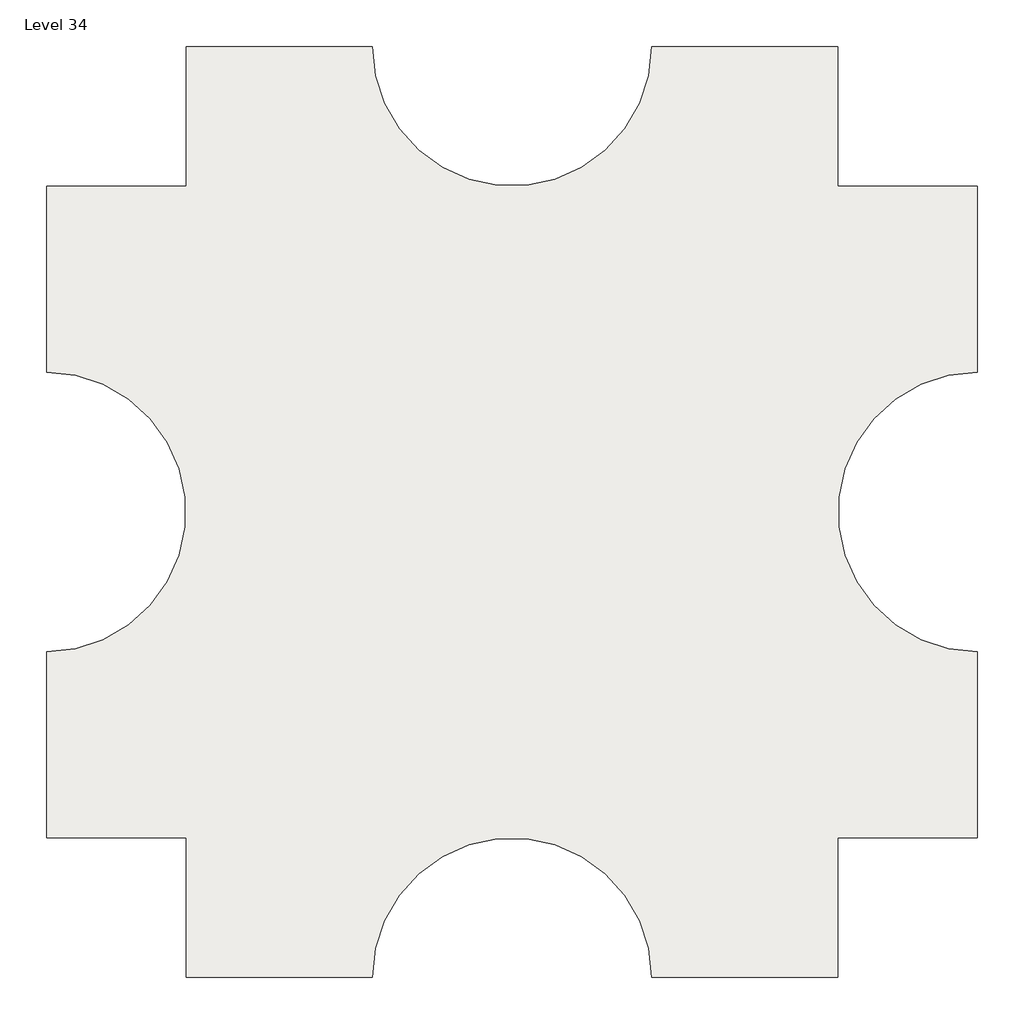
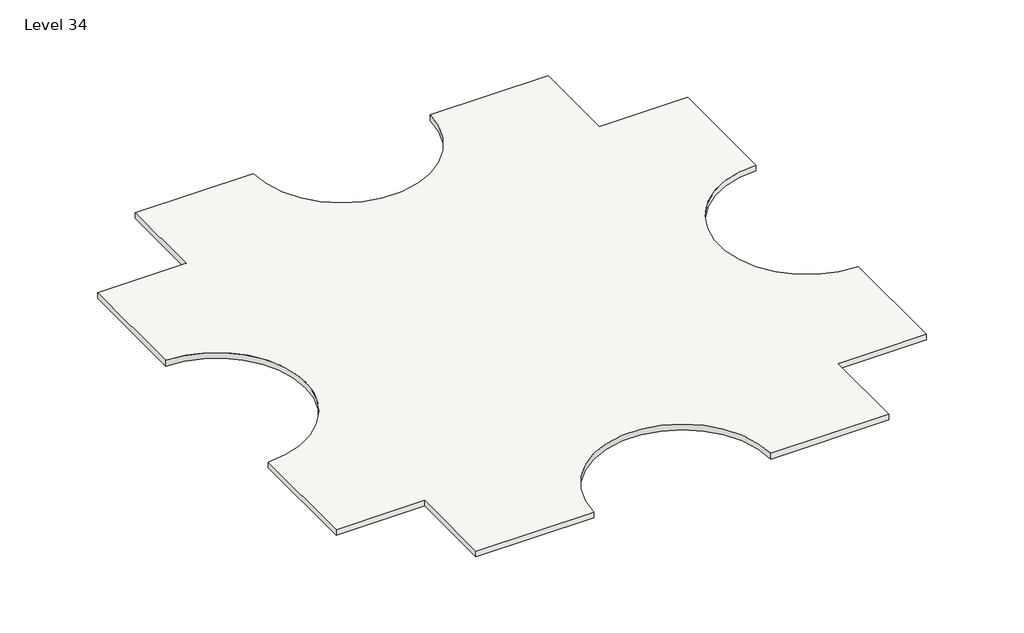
# One storey: 2 slabs.
"""IFC4 building model written with IfcOpenShell, lengths in millimetres."""

import ifcopenshell
import ifcopenshell.guid

model = None  # the IFC model being written
_history = None  # IfcOwnerHistory: only IFC2X3 demands one
_inside = {}  # id of a spatial element -> (the spatial element, [elements in it])
_under = {}  # id of a project, library or spatial element -> (it, [spatial elements below it])
_declared = {}  # id of a project -> (the project, [libraries it declares])
_typed = {}  # id of a type object -> (the type object, [elements of that type])
_made_of = {}  # id of a material, layer set ... -> (it, [elements and type objects made of it])


def new_model(schema):
    """Start an empty IFC model of exactly this schema.

    Asked for "IFC4X3", IfcOpenShell would pick the latest addendum, in which some entities
    have other attributes; the version numbers below select the first issue.
    IFC2X3 requires an IfcOwnerHistory on every rooted entity: one is made here for all.
    """
    global model, _history
    if schema == "IFC4X3":
        model = ifcopenshell.file(schema_version=(4, 3, 0, 0))
    else:
        model = ifcopenshell.file(schema=schema)
    _inside.clear()
    _under.clear()
    _declared.clear()
    _typed.clear()
    _made_of.clear()
    _history = None
    if model.schema == "IFC2X3":
        org = make("IfcOrganization", Name="unknown")
        user = make(
            "IfcPersonAndOrganization",
            ThePerson=make("IfcPerson", FamilyName="unknown"),
            TheOrganization=org,
        )
        app = make(
            "IfcApplication",
            ApplicationDeveloper=org,
            Version="unknown",
            ApplicationFullName="unknown",
            ApplicationIdentifier="unknown",
        )
        _history = make(
            "IfcOwnerHistory",
            OwningUser=user,
            OwningApplication=app,
            ChangeAction="ADDED",
            CreationDate=0,
        )
    return model


def make(cls, **values):
    """One entity of the class cls with the attributes given. An attribute that is None is left unset."""
    return model.create_entity(
        cls, **{name: value for name, value in values.items() if value is not None}
    )


def rooted(cls, **values):
    """An entity with a GlobalId (a new one), such as an element, a storey or a relation."""
    return make(cls, GlobalId=ifcopenshell.guid.new(), OwnerHistory=_history, **values)


def si_unit(unit_type, name, prefix=None):
    """IfcSIUnit, for example si_unit("LENGTHUNIT", "METRE", prefix="MILLI")."""
    return make("IfcSIUnit", UnitType=unit_type, Prefix=prefix, Name=name)


def assignment(units):
    """IfcUnitAssignment: the units of a project."""
    return None if units is None else make("IfcUnitAssignment", Units=units)


def point(xyz):
    """IfcCartesianPoint."""
    return None if xyz is None else make("IfcCartesianPoint", Coordinates=xyz)


def direction(xyz):
    """IfcDirection."""
    return None if xyz is None else make("IfcDirection", DirectionRatios=xyz)


def frame(location, z_axis=None, x_axis=None):
    """IfcAxis2Placement3D, a coordinate frame: its origin and axes. An axis left out is left unset."""
    return make(
        "IfcAxis2Placement3D",
        Location=point(location),
        Axis=direction(z_axis),
        RefDirection=direction(x_axis),
    )


def frame_2d(location, x_axis=None):
    """IfcAxis2Placement2D, a coordinate frame in the plane: its origin and x axis."""
    return make(
        "IfcAxis2Placement2D", Location=point(location), RefDirection=direction(x_axis)
    )


def origin():
    """The frame at (0, 0, 0) with its axes left unset."""
    return frame((0.0, 0.0, 0.0))


def place(relative_to, where):
    """IfcLocalPlacement: puts the frame where relative to a parent placement (None: the world)."""
    return make(
        "IfcLocalPlacement", PlacementRelTo=relative_to, RelativePlacement=where
    )


def context(
    kind, dimensions, precision=None, world=None, true_north=None, identifier=None
):
    """IfcGeometricRepresentationContext, for example the 3D "Model" context."""
    return make(
        "IfcGeometricRepresentationContext",
        ContextIdentifier=identifier,
        ContextType=kind,
        CoordinateSpaceDimension=dimensions,
        Precision=precision,
        WorldCoordinateSystem=world,
        TrueNorth=true_north,
    )


def project(units=None, contexts=None):
    """IfcProject with its units and contexts."""
    return rooted(
        "IfcProject",
        Name="project",
        RepresentationContexts=contexts,
        UnitsInContext=assignment(units),
    )


def spatial(cls, under=None, at=None, **own):
    """A site, building, storey or space (cls), placed at a placement, below another one or the project."""
    s = rooted(cls, ObjectPlacement=at, **own)
    if under is not None:
        _under.setdefault(under.id(), (under, []))[1].append(s)
    return s


def polyline(points):
    """IfcPolyline through the points."""
    return make("IfcPolyline", Points=[point(p) for p in points])


def circle_curve(where, radius):
    """IfcCircle in the frame where."""
    return make("IfcCircle", Position=where, Radius=radius)


def trimmed(basis, trim1, trim2, sense, master):
    """IfcTrimmedCurve: the piece of a basis curve between two trims."""
    return make(
        "IfcTrimmedCurve",
        BasisCurve=basis,
        Trim1=trim1,
        Trim2=trim2,
        SenseAgreement=sense,
        MasterRepresentation=master,
    )


def segment(curve, same_sense, transition):
    """IfcCompositeCurveSegment."""
    return make(
        "IfcCompositeCurveSegment",
        Transition=transition,
        SameSense=same_sense,
        ParentCurve=curve,
    )


def composite_curve(segments, self_intersect=None):
    """IfcCompositeCurve: segments joined end to end."""
    return make("IfcCompositeCurve", Segments=segments, SelfIntersect=self_intersect)


def outline(outer, holes=None, kind="AREA"):
    """IfcArbitraryClosedProfileDef: a profile drawn as a closed curve; with holes, ...WithVoids."""
    if holes is None:
        return make("IfcArbitraryClosedProfileDef", ProfileType=kind, OuterCurve=outer)
    return make(
        "IfcArbitraryProfileDefWithVoids",
        ProfileType=kind,
        OuterCurve=outer,
        InnerCurves=holes,
    )


def extrude(swept, where, along, depth):
    """IfcExtrudedAreaSolid: the profile swept, set in the frame where, extruded along a direction by depth."""
    return make(
        "IfcExtrudedAreaSolid",
        SweptArea=swept,
        Position=where,
        ExtrudedDirection=direction(along),
        Depth=depth,
    )


def shape(context_of_items, identifier, shape_type, items):
    """IfcShapeRepresentation: the items that make up one representation, for example the "Body"."""
    return make(
        "IfcShapeRepresentation",
        ContextOfItems=context_of_items,
        RepresentationIdentifier=identifier,
        RepresentationType=shape_type,
        Items=items,
    )


def made_of(thing, what):
    """Note that an element or type object is made of a material, layer set ...; save() writes the relation."""
    if what is not None:
        _made_of.setdefault(what.id(), (what, []))[1].append(thing)
    return thing


def element(
    cls,
    number,
    at=None,
    inside=None,
    cuts=None,
    type_object=None,
    material=None,
    context=None,
    identifier="Body",
    shape_type=None,
    held_by="IfcProductDefinitionShape",
    body=None,
    shapes=None,
    **own,
):
    """One element of the class cls, such as IfcWall. Its Tag is "e" and its number.

    at: its placement. inside: the storey or other place that contains it. cuts: it is an
    opening in that element (IfcRelVoidsElement). A single representation is given by context,
    identifier, shape_type and body (its items); several are given by shapes. held_by: the class
    of the entity that holds the representations. save() writes the other relations.
    """
    e = rooted(cls, Tag="e%d" % number, ObjectPlacement=at, **own)
    if body is not None:
        shapes = [shape(context, identifier, shape_type, body)]
    if shapes is not None:
        e.Representation = make(held_by, Representations=shapes)
    if inside is not None:
        _inside.setdefault(inside.id(), (inside, []))[1].append(e)
    if cuts is not None:
        rooted(
            "IfcRelVoidsElement", RelatingBuildingElement=cuts, RelatedOpeningElement=e
        )
    if type_object is not None:
        _typed.setdefault(type_object.id(), (type_object, []))[1].append(e)
    return made_of(e, material)


def aggregate(whole, parts):
    """IfcRelAggregates: a whole, such as a stair, and the parts it consists of."""
    return rooted("IfcRelAggregates", RelatingObject=whole, RelatedObjects=parts)


def save(model, path):
    """Write the relations noted so far, then the file.

    IfcRelAggregates (storeys below a building ...), IfcRelContainedInSpatialStructure (elements
    in a storey), IfcRelDefinesByType, IfcRelAssociatesMaterial and IfcRelDeclares: one each for
    every whole, place, type object, material and project.
    """
    for whole, parts in _under.values():
        aggregate(whole, parts)
    for where, things in _inside.values():
        rooted(
            "IfcRelContainedInSpatialStructure",
            RelatedElements=things,
            RelatingStructure=where,
        )
    for kind, things in _typed.values():
        rooted("IfcRelDefinesByType", RelatedObjects=things, RelatingType=kind)
    for what, things in _made_of.values():
        rooted("IfcRelAssociatesMaterial", RelatedObjects=things, RelatingMaterial=what)
    for by, libraries in _declared.values():
        rooted("IfcRelDeclares", RelatingContext=by, RelatedDefinitions=libraries)
    model.write(path)


model = new_model("IFC4")

# Units and contexts
model_context = context("Model", 3, world=origin())
ifc_project = project(units=[si_unit("LENGTHUNIT", "METRE", prefix="MILLI")], contexts=[model_context])

# Site, building, storey
site = spatial("IfcSite", under=ifc_project)
building = spatial("IfcBuilding", under=site)
storey = spatial("IfcBuildingStorey", under=building, Name="Level 34", Elevation=100584.0)

# Slabs
placement = place(None, origin())
element("IfcSlab", 1, ObjectType="Generic - 12\"", at=placement, inside=storey, context=model_context, shape_type="SweptSolid", body=[
    extrude(outline(composite_curve([segment(polyline([(-7150.3629456, 4479.6634547), (-7150.3629456, 9051.6634547), (-1054.3629456, 9051.6634547)]), True, "CONTINUOUS"), segment(trimmed(circle_curve(frame_2d((3517.6370544, 9051.6634547)), 4572.0), [point((-1054.3629456, 9051.6634547))], [point((8089.6370544, 9051.6634547))], True, "CARTESIAN"), True, "CONTINUOUS"), segment(polyline([(8089.6370544, 9051.6634547), (14185.6370544, 9051.6634547), (14185.6370544, 4479.6634547), (18757.6370544, 4479.6634547), (18757.6370544, -1616.3365453)]), True, "CONTINUOUS"), segment(trimmed(circle_curve(frame_2d((18757.6370544, -6188.3365453)), 4572.0), [point((18757.6370544, -1616.3365453))], [point((18757.6370544, -10760.3365453))], True, "CARTESIAN"), True, "CONTINUOUS"), segment(polyline([(18757.6370544, -10760.3365453), (18757.6370544, -16856.3365453), (14185.6370544, -16856.3365453), (14185.6370544, -21428.3365453), (8089.6370544, -21428.3365453)]), True, "CONTINUOUS"), segment(trimmed(circle_curve(frame_2d((3517.6370544, -21428.3365453)), 4572.0), [point((8089.6370544, -21428.3365453))], [point((-1054.3629456, -21428.3365453))], True, "CARTESIAN"), True, "CONTINUOUS"), segment(polyline([(-1054.3629456, -21428.3365453), (-7150.3629456, -21428.3365453), (-7150.3629456, -16856.3365453), (-11722.3629456, -16856.3365453), (-11722.3629456, -10760.3365453)]), True, "CONTINUOUS"), segment(trimmed(circle_curve(frame_2d((-11722.3629456, -6188.3365453)), 4572.0), [point((-11722.3629456, -10760.3365453))], [point((-11722.3629456, -1616.3365453))], True, "CARTESIAN"), True, "CONTINUOUS"), segment(polyline([(-11722.3629456, -1616.3365453), (-11722.3629456, 4479.6634547), (-7150.3629456, 4479.6634547)]), True, "CONTINUOUS")], self_intersect=False)), frame((0.0, 0.0, 100279.2), z_axis=(0.0, 0.0, 1.0), x_axis=(1.0, 0.0, 0.0)), (0.0, 0.0, 1.0), 304.8),
])
element("IfcSlab", 2, ObjectType="Generic - 12\"", at=placement, inside=storey, context=model_context, shape_type="SweptSolid", body=[
    extrude(outline(composite_curve([segment(polyline([(-7150.3629456, 4479.6634547), (-7150.3629456, 9051.6634547), (-1054.3629456, 9051.6634547)]), True, "CONTINUOUS"), segment(trimmed(circle_curve(frame_2d((3517.6370544, 9051.6634547)), 4572.0), [point((-1054.3629456, 9051.6634547))], [point((8089.6370544, 9051.6634547))], True, "CARTESIAN"), True, "CONTINUOUS"), segment(polyline([(8089.6370544, 9051.6634547), (14185.6370544, 9051.6634547), (14185.6370544, 4479.6634547), (18757.6370544, 4479.6634547), (18757.6370544, -1616.3365453)]), True, "CONTINUOUS"), segment(trimmed(circle_curve(frame_2d((18757.6370544, -6188.3365453)), 4572.0), [point((18757.6370544, -1616.3365453))], [point((18757.6370544, -10760.3365453))], True, "CARTESIAN"), True, "CONTINUOUS"), segment(polyline([(18757.6370544, -10760.3365453), (18757.6370544, -16856.3365453), (14185.6370544, -16856.3365453), (14185.6370544, -21428.3365453), (8089.6370544, -21428.3365453)]), True, "CONTINUOUS"), segment(trimmed(circle_curve(frame_2d((3517.6370544, -21428.3365453)), 4572.0), [point((8089.6370544, -21428.3365453))], [point((-1054.3629456, -21428.3365453))], True, "CARTESIAN"), True, "CONTINUOUS"), segment(polyline([(-1054.3629456, -21428.3365453), (-7150.3629456, -21428.3365453), (-7150.3629456, -16856.3365453), (-11722.3629456, -16856.3365453), (-11722.3629456, -10760.3365453)]), True, "CONTINUOUS"), segment(trimmed(circle_curve(frame_2d((-11722.3629456, -6188.3365453)), 4572.0), [point((-11722.3629456, -10760.3365453))], [point((-11722.3629456, -1616.3365453))], True, "CARTESIAN"), True, "CONTINUOUS"), segment(polyline([(-11722.3629456, -1616.3365453), (-11722.3629456, 4479.6634547), (-7150.3629456, 4479.6634547)]), True, "CONTINUOUS")], self_intersect=False)), frame((0.0, 0.0, 100279.2), z_axis=(0.0, 0.0, 1.0), x_axis=(1.0, 0.0, 0.0)), (0.0, 0.0, 1.0), 304.8),
])

save(model, "model.ifc")
